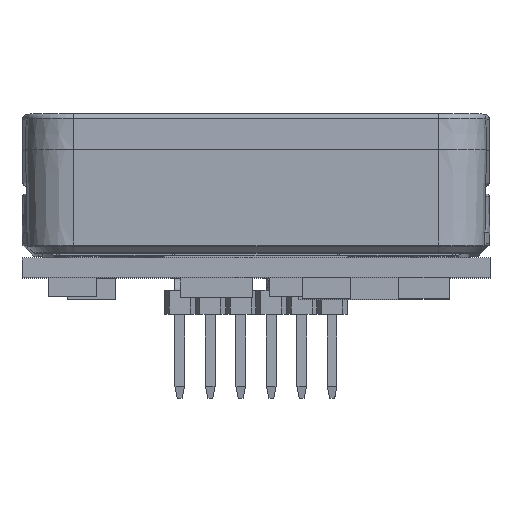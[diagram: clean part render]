
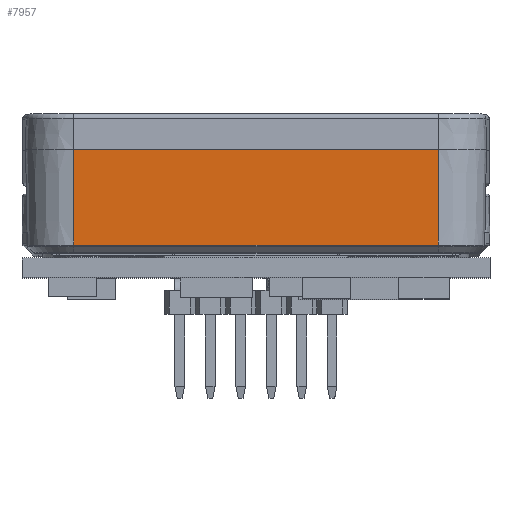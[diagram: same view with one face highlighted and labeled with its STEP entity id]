
A CAD part, top view. The second image highlights one B-rep face of the part: STEP entity #7957.
In plain terms, the highlighted planar face has unit normal (0, -0.018, 1).
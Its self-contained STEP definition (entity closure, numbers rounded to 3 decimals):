
#196 = ORIENTED_EDGE ( 'NONE', *, *, #27045, .T. ) ;
#857 = EDGE_CURVE ( 'NONE', #28866, #63912, #47462, .T. ) ;
#1390 = DIRECTION ( 'NONE',  ( -1., 0., 0. ) ) ;
#2221 = ORIENTED_EDGE ( 'NONE', *, *, #857, .T. ) ;
#3352 = VECTOR ( 'NONE', #28776, 1000. ) ;
#3695 = DIRECTION ( 'NONE',  ( 0., 1., 0.017 ) ) ;
#5855 = CARTESIAN_POINT ( 'NONE',  ( -7.6, 0., 4.646 ) ) ;
#7957 = ADVANCED_FACE ( 'NONE', ( #57882 ), #41488, .T. ) ;
#8186 = LINE ( 'NONE', #21103, #19271 ) ;
#18617 = CARTESIAN_POINT ( 'NONE',  ( 7.6, 0., 4.646 ) ) ;
#19271 = VECTOR ( 'NONE', #1390, 1000. ) ;
#19722 = ORIENTED_EDGE ( 'NONE', *, *, #41853, .T. ) ;
#20807 = VECTOR ( 'NONE', #61713, 1000. ) ;
#21103 = CARTESIAN_POINT ( 'NONE',  ( 0., 0., 4.646 ) ) ;
#22010 = CARTESIAN_POINT ( 'NONE',  ( -7.6, -3.974, 4.577 ) ) ;
#22135 = AXIS2_PLACEMENT_3D ( 'NONE', #22923, #58716, #3695 ) ;
#22923 = CARTESIAN_POINT ( 'NONE',  ( 0., 0., 4.646 ) ) ;
#27045 = EDGE_CURVE ( 'NONE', #57454, #28866, #65184, .T. ) ;
#28776 = DIRECTION ( 'NONE',  ( 0., 1., 0.017 ) ) ;
#28866 = VERTEX_POINT ( 'NONE', #53243 ) ;
#36332 = EDGE_LOOP ( 'NONE', ( #63428, #196, #2221, #19722 ) ) ;
#38619 = EDGE_CURVE ( 'NONE', #57454, #64875, #59311, .T. ) ;
#40386 = CARTESIAN_POINT ( 'NONE',  ( 0., -3.974, 4.577 ) ) ;
#41488 = PLANE ( 'NONE',  #22135 ) ;
#41853 = EDGE_CURVE ( 'NONE', #63912, #64875, #8186, .T. ) ;
#45189 = DIRECTION ( 'NONE',  ( 1., 0., 0. ) ) ;
#47462 = LINE ( 'NONE', #18617, #3352 ) ;
#53243 = CARTESIAN_POINT ( 'NONE',  ( 7.6, -3.974, 4.577 ) ) ;
#57454 = VERTEX_POINT ( 'NONE', #22010 ) ;
#57882 = FACE_OUTER_BOUND ( 'NONE', #36332, .T. ) ;
#58716 = DIRECTION ( 'NONE',  ( 0., -0.017, 1. ) ) ;
#59311 = LINE ( 'NONE', #5855, #20807 ) ;
#61713 = DIRECTION ( 'NONE',  ( 0., 1., 0.017 ) ) ;
#62020 = CARTESIAN_POINT ( 'NONE',  ( -7.6, 0., 4.646 ) ) ;
#62523 = CARTESIAN_POINT ( 'NONE',  ( 7.6, 0., 4.646 ) ) ;
#63428 = ORIENTED_EDGE ( 'NONE', *, *, #38619, .F. ) ;
#63579 = VECTOR ( 'NONE', #45189, 1000. ) ;
#63912 = VERTEX_POINT ( 'NONE', #62523 ) ;
#64875 = VERTEX_POINT ( 'NONE', #62020 ) ;
#65184 = LINE ( 'NONE', #40386, #63579 ) ;
